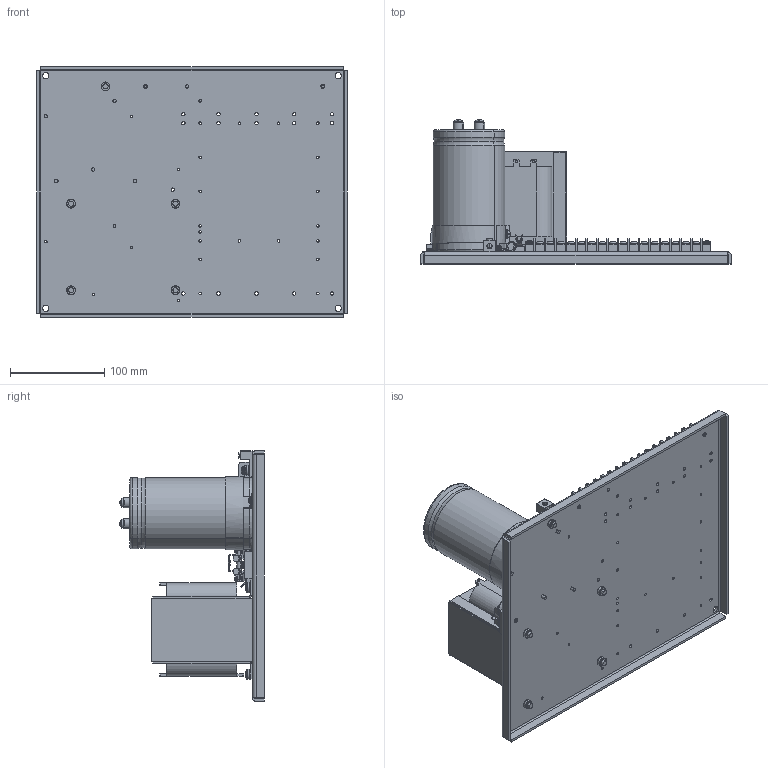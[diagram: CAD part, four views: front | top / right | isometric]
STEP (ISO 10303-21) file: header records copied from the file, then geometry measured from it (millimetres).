
FILE_DESCRIPTION((''),'2;1');
FILE_NAME('AMC_CAD_PS_PS16120_ASM','2019-06-06T',('SYSTEM'),(''),'PRO/ENGINEER BY PARAMETRIC TECHNOLOGY CORPORATION, 2016360','PRO/ENGINEER BY PARAMETRIC TECHNOLOGY CORPORATION, 2016360','');
FILE_SCHEMA(('AUTOMOTIVE_DESIGN { 1 0 10303 214 1 1 1 1 }'));
Length unit declared in the file: inch
Products named in the file (55): FUSE-2-SOLID1; S5-4-SOLID1; S2-3-SOLID2; S9-5-SOLID2; FH-1-SOLID6; FH-1-SOLID5; S9-5-SOLID1; S8-6-SOLID2; C1-2-SOLID1; CLAMP-2-SOLID1; FH-1-SOLID4; T1-2-SOLID1; S5-4-SOLID2; S10-3-SOLID1; S15-2-SOLID1; FH-1-SOLID2; N1-2-SOLID1; R1-2-SOLID1; S13-3-SOLID1; BRKT1-2-SOLID1; S1-2-SOLID2; S1-2-SOLID1; S2-3-SOLID1; FH-1-SOLID7; S7-4-SOLID2; BSPLT-2-SOLID2; S3-2-SOLID1; BSPLT-2-SOLID1; BSPLT-2-SOLID5; S3-2-SOLID2; S12-2-SOLID2; S7-4-SOLID1; BSPLT-2-SOLID6; FH-1-SOLID1; S11-4-SOLID2; FH-1-SOLID3; S12-2-SOLID1; S14-2-SOLID2; BSPLT-2-SOLID3; S8-6-SOLID1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
Assembly tree (54 placements, depth 3):
  AMC_CAD_PS_PS16120_ASM
    ASM0001_ASM
      FUSE-2-SOLID1
      S5-4-SOLID1
      S2-3-SOLID2
      S9-5-SOLID2
      FH-1-SOLID6
      FH-1-SOLID5
      S9-5-SOLID1
      S8-6-SOLID2
      C1-2-SOLID1
      CLAMP-2-SOLID1
      FH-1-SOLID4
      T1-2-SOLID1
      S5-4-SOLID2
      S10-3-SOLID1
      S15-2-SOLID1
      FH-1-SOLID2
      N1-2-SOLID1
      R1-2-SOLID1
      S13-3-SOLID1
      BRKT1-2-SOLID1
      S1-2-SOLID2
      S1-2-SOLID1
      S2-3-SOLID1
      FH-1-SOLID7
      S7-4-SOLID2
      BSPLT-2-SOLID2
      S3-2-SOLID1
      BSPLT-2-SOLID1
      BSPLT-2-SOLID5
      S3-2-SOLID2
      S12-2-SOLID2
      S7-4-SOLID1
      BSPLT-2-SOLID6
      FH-1-SOLID1
      S11-4-SOLID2
      FH-1-SOLID3
      S12-2-SOLID1
      S14-2-SOLID2
      BSPLT-2-SOLID3
      S8-6-SOLID1
      S4-3-SOLID1
      S4-3-SOLID2
      P2-2-SOLID1
      P1-2-SOLID1
      S15-2-SOLID2
      BSPLT-2-SOLID4
      S6-5-SOLID1
      S11-4-SOLID1
      S10-3-SOLID2
      S6-5-SOLID2
      DB1-2-SOLID1
      S14-2-SOLID1
      S13-3-SOLID2
Bounding box: 330.2 x 153.35 x 266.7 mm (x, y, z)
Volume: 2055631.6 mm3; surface area: 367173.5 mm2
Topology: 53 solids, 53 shells, 2609 faces, 6954 edges, 4554 vertices
Faces by surface type: plane 1134, cylinder 948, cone 214, torus 151, extrusion 95, sphere 50, bspline 17
Entity records: 137675 total; most frequent: CARTESIAN_POINT 39390, ORIENTED_EDGE 13868, DIRECTION 13714, PRESENTATION_STYLE_ASSIGNMENT 8103, STYLED_ITEM 6987, CURVE_STYLE 6934, EDGE_CURVE 6934, AXIS2_PLACEMENT_3D 5033
